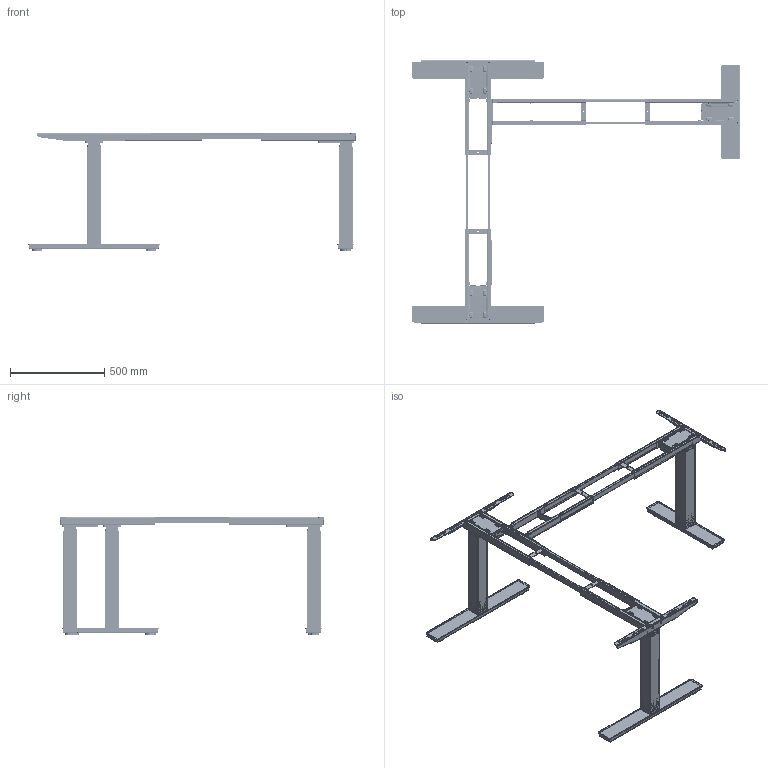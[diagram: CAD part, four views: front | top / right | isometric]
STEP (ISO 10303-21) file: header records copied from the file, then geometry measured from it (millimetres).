
FILE_DESCRIPTION(('CATIA V5 STEP Exchange'),'2;1');
FILE_NAME('F:\胡亚菊\工作\2021年设计申请单\陈丹\T140\工程图\序号5任务单0848# AK3YJYT-TYZF3-90生产图及BOM清单\AK3YJYT-TYZF3-90-140.stp','2021-03-23T08:29:03+00:00',('none'),('none'),'CATIA Version 5 Release 21 GA (IN-10)','CATIA V5 STEP AP203','none');
FILE_SCHEMA(('CONFIG_CONTROL_DESIGN'));
Products named in the file (15): AK3YJYT-TYZF3-90-140; Product1; TYZF3-140; 1.13.077.X AK-TYZF3-SG01-548_65LS; 1.15.047.X AK-TYZF3-XG01-516_75_下管(薄管隐藏式正装方管三节); AK-ZHHL01YJ-M500L02-WC-L; 1.11.008.X AK-DJ01B-700-V4_700平地脚01B-V4; 1.11.008.X AK-DJ01B-700; Product2; AK-ZHHL01YJ-M500L02-WC-R; AK-ZHHL02J-990B(ZHJ); AK-ZHHL01YJ-M500A-WC; Product3; 1.11.023.X AK-DJ01B-500-V2_500平地脚01B-V2; 1.11.023.X AK-DJ01B-500
Assembly tree (65 placements, depth 5):
  AK3YJYT-TYZF3-90-140
    Product1
      TYZF3-140
        1.13.077.X AK-TYZF3-SG01-548_65LS
          #82
          #2946
          #5843
        #14609
        1.15.047.X AK-TYZF3-XG01-516_75_下管(薄管隐藏式正装方管三节)
          #18556
          #19943
        #21029
        #66330
        #74124
      AK-ZHHL01YJ-M500L02-WC-L
        #81939  x2
        #82710  x2
        #83110
        #83805
        #84962
        #86528
      #87396
      1.11.008.X AK-DJ01B-700-V4_700平地脚01B-V4
        1.11.008.X AK-DJ01B-700
          #89143
          #89814
          #93506
        #95141  x2
    Product2
      TYZF3-140
        1.13.077.X AK-TYZF3-SG01-548_65LS
          #82
          #2946
          #5843
        #14609
        1.15.047.X AK-TYZF3-XG01-516_75_下管(薄管隐藏式正装方管三节)
          #18556
          #19943
        #21029
        #66330
        #74124
      AK-ZHHL01YJ-M500L02-WC-R
        #81939  x2
        #82710  x2
        #83110
        #83805
        #84962
        #86528
      #87396
      1.11.008.X AK-DJ01B-700-V4_700平地脚01B-V4
        1.11.008.X AK-DJ01B-700
          #89143
          #89814
          #93506
        #95141  x2
    AK-ZHHL02J-990B(ZHJ)  x2
      #99532
    AK-ZHHL01YJ-M500A-WC
      #81939  x2
      #82710  x2
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Bounding box: 1739.75 x 1400 x 625 mm (x, y, z)
Volume: 5315662.8 mm3; surface area: 5744323.8 mm2
Topology: 108 solids, 108 shells, 9029 faces, 24664 edges, 15838 vertices
Faces by surface type: plane 3742, cylinder 3552, cone 756, bspline 549, torus 322, sphere 108
Entity records: 107009 total; most frequent: CARTESIAN_POINT 37938, ORIENTED_EDGE 16102, DIRECTION 10680, EDGE_CURVE 8051, VERTEX_POINT 5180, VECTOR 4222, LINE 4222, AXIS2_PLACEMENT_3D 4166
